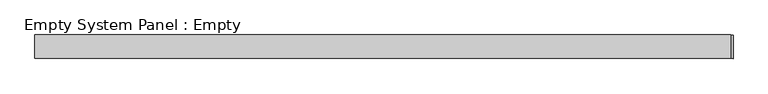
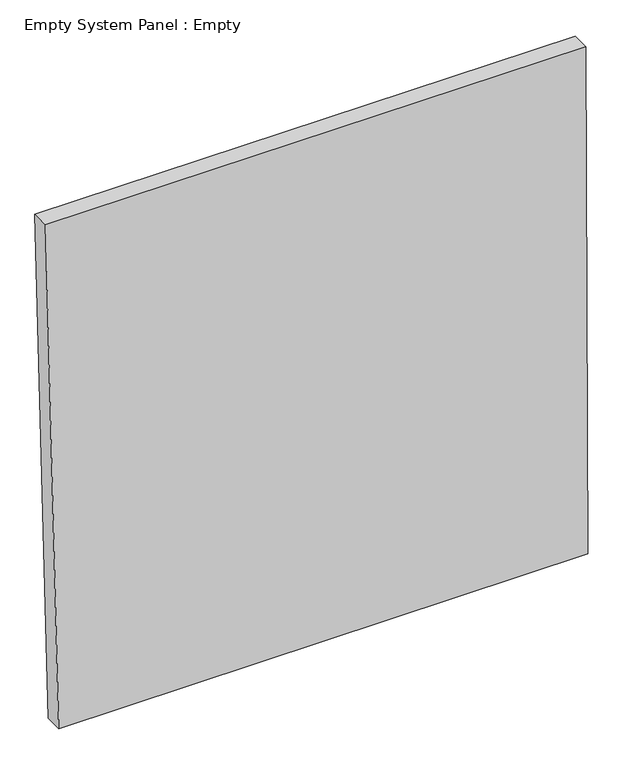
"""IFC4 building model written with IfcOpenShell, lengths in millimetres: plate geometry, Empty System Panel : Empty."""

from ifc_helpers import new_model, si_unit, frame, origin, place, context, project, spatial, polyline, outline, extrude, source, transform, mapped, element, save


def empty_system_panel_empty_d6b783ce(model_context):
    return source(origin(), model_context, "Body", "SweptSolid", [
        extrude(outline(polyline([(0.0, -1431.862169), (0.0, 1505.0286897), (2976.7916164, 1494.2208612), (2981.473301, -1505.0286897), (0.0, -1431.862169)])), frame((0.0, -50.8, 0.0), z_axis=(0.0, 1.0, 0.0), x_axis=(0.0, 0.0, 1.0)), (0.0, 0.0, 1.0), 101.6),
    ])


if __name__ == "__main__":
    model = new_model("IFC4")
    model_context = context("Model", 3, world=origin())
    ifc_project = project(units=[si_unit("LENGTHUNIT", "METRE", prefix="MILLI")], contexts=[model_context])
    site = spatial("IfcSite", under=ifc_project)
    building = spatial("IfcBuilding", under=site)
    placement = place(None, origin())
    empty_system_panel_empty_shape = empty_system_panel_empty_d6b783ce(model_context)
    element("IfcPlate", 1, ObjectType="Empty System Panel : Empty", at=placement, inside=building, context=model_context, shape_type="MappedRepresentation", body=[
        mapped(empty_system_panel_empty_shape, transform((0.0, 0.0, 0.0), x_axis=(1.0, 0.0, 0.0), y_axis=(0.0, 1.0, 0.0), z_axis=(0.0, 0.0, 1.0))),
    ])
    save(model, "model.ifc")
